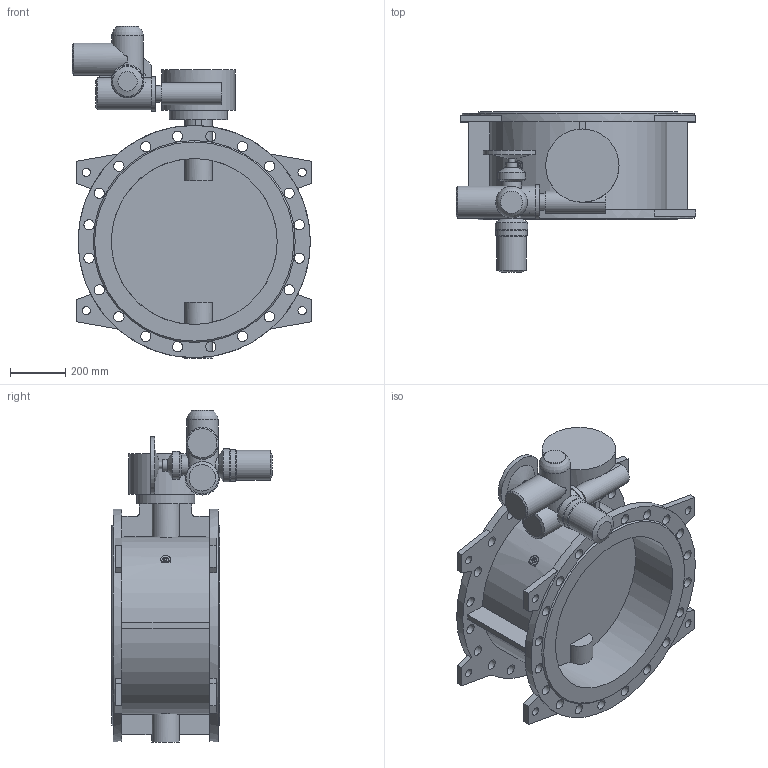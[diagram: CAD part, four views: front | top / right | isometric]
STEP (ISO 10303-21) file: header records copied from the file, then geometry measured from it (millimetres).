
FILE_DESCRIPTION(('STEP AP203'), '1');
FILE_NAME('Çàòâîð 023F.Z DN600 PN16 + ðåäóêòîð + ÌÒ903.À07', '', ('UNSPECIFIED'), ('UNSPECIFIED'), 'ASCON STEP Converter 1.6', 'ASCON Math Kernel', '');
FILE_SCHEMA(('CONFIG_CONTROL_DESIGN'));
Length unit declared in the file: millimetre
Bounding box: 866 x 580.5 x 1200 mm (x, y, z)
Volume: 69001117.6 mm3; surface area: 4166721.9 mm2
Topology: 1 solids, 1 shells, 229 faces, 561 edges, 368 vertices
Faces by surface type: plane 109, cylinder 108, cone 11, torus 1
Full cylindrical faces by diameter (mm): 8.5 x4, 12 x4, 18.5 x4, 23 x4, 24 x1, 30 x8, 37 x40, 42 x1, 60 x1, 66 x1, 72 x1, 80 x2, 100 x2, 108 x1, 114 x1, 115 x1, 116 x2, 119 x1, 125 x1, 210 x1, 265 x1, 600 x2, 840 x2
Entity records: 10443 total; most frequent: CARTESIAN_POINT 3248, DIRECTION 1109, ORIENTED_EDGE 918, AXIS2_PLACEMENT_3D 459, EDGE_CURVE 459, EDGE_LOOP 458, VERTEX_POINT 367, FACE_BOUND 271
